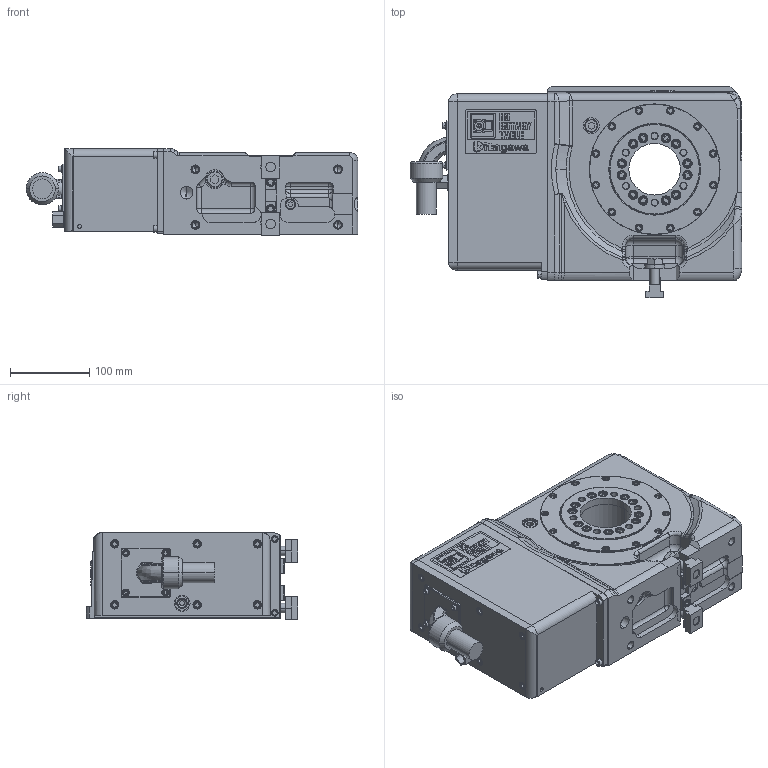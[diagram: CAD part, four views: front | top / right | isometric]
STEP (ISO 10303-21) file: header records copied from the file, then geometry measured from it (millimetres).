
FILE_DESCRIPTION (( 'STEP AP214' ), '1' );
FILE_NAME ('【掲載用】CK160Quinte左勝手.STEP', '2019-10-11T01:50:51', ( '' ), ( '' ), 'SwSTEP 2.0', 'SolidWorks 2017', '' );
FILE_SCHEMA (( 'AUTOMOTIVE_DESIGN' ));
Length unit declared in the file: millimetre
Products named in the file (22): テーブル(61E8145702)CKR160R00; Tスロットナット１４１２; ベアリングプッシュプレート(61E8145801)CKR160R00; B パーカ　M12×40; ベース(61E1136614)CKR160L00_ﾃﾞﾌｫﾙﾄ<ﾏｼﾝ加工>; ワッシャ １２(61M4266320)VQ100; CK160LVホンタイ; 【掲載用】CK160Quinte左勝手; 働乕僽儖N29ZSZ2562; キタガワシール; SMC KQ2E06-02; モータケースカバー(61E8232390)CKR160LV00_ﾃﾞﾌｫﾙﾄ<ﾏｼﾝ加工>; モータケース(61E2715130)CKR160LV00_ﾃﾞﾌｫﾙﾄ<ﾏｼﾝ加工>; ガイドブロック(61M4198752); CK160L00僋儈僞僥(61E5013630); 僱乕儉僾儗乕僩丂MB160丂怴儘僑; CKR160　カバー; オイルゲージ 257; CKR160 チェックバルブ AKB01A-01S-×435; 僣僶僣僉僾儔僌GFO M20x1.5; シリンダ(61E8157592)CK160R00; クランプキミタテ(61E473251)CK160D1
Assembly tree (23 placements, depth 4):
  【掲載用】CK160Quinte左勝手
    CK160LVホンタイ
      CK160L00僋儈僞僥(61E5013630)
        ベース(61E1136614)CKR160L00_ﾃﾞﾌｫﾙﾄ<ﾏｼﾝ加工>
        ベアリングプッシュプレート(61E8145801)CKR160R00
        テーブル(61E8145702)CKR160R00
        シリンダ(61E8157592)CK160R00
        僣僶僣僉僾儔僌GFO M20x1.5
        CKR160 チェックバルブ AKB01A-01S-×435
        オイルゲージ 257
        CKR160　カバー
        僱乕儉僾儗乕僩丂MB160丂怴儘僑
      ガイドブロック(61M4198752)  x2
      モータケース(61E2715130)CKR160LV00_ﾃﾞﾌｫﾙﾄ<ﾏｼﾝ加工>
      モータケースカバー(61E8232390)CKR160LV00_ﾃﾞﾌｫﾙﾄ<ﾏｼﾝ加工>
      SMC KQ2E06-02
      キタガワシール
      働乕僽儖N29ZSZ2562
    クランプキミタテ(61E473251)CK160D1  x2
      ワッシャ １２(61M4266320)VQ100
      B パーカ　M12×40
      Tスロットナット１４１２
Bounding box: 418.4 x 267 x 109.35 mm (x, y, z)
Volume: 8063387.8 mm3; surface area: 666799 mm2
Topology: 23 solids, 23 shells, 4085 faces, 10473 edges, 6812 vertices
Faces by surface type: plane 2867, cylinder 772, cone 313, bspline 88, torus 27, sphere 18
Entity records: 152691 total; most frequent: CARTESIAN_POINT 33238, ORIENTED_EDGE 20524, DIRECTION 19760, EDGE_CURVE 10262, VECTOR 8150, LINE 8150, VERTEX_POINT 6710, AXIS2_PLACEMENT_3D 5805
